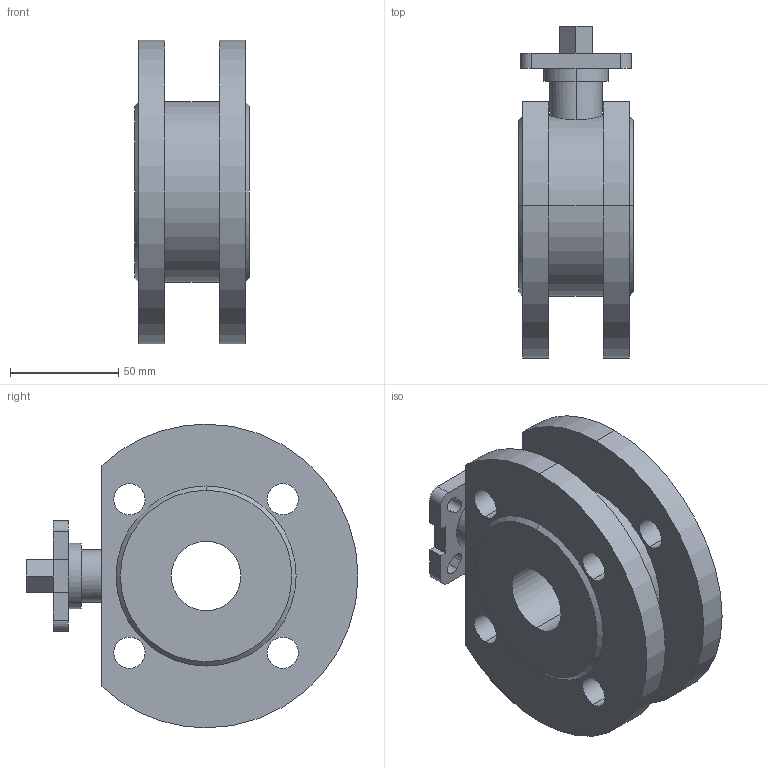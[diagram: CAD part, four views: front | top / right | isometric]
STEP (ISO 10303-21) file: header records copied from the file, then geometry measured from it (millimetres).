
FILE_DESCRIPTION (( 'STEP AP203' ), '1' );
FILE_NAME ('01.622I032016CP.STEP', '2018-10-23T07:31:28', ( '' ), ( '' ), 'SwSTEP 2.0', 'SolidWorks 2014', '' );
FILE_SCHEMA (( 'CONFIG_CONTROL_DESIGN' ));
Length unit declared in the file: millimetre
Products named in the file (1): 01.622I032016CP
Bounding box: 53 x 153 x 140 mm (x, y, z)
Volume: 458842.5 mm3; surface area: 75445.6 mm2
Topology: 1 solids, 1 shells, 86 faces, 228 edges, 152 vertices
Faces by surface type: cylinder 46, plane 36, cone 4
Entity records: 2925 total; most frequent: CARTESIAN_POINT 557, DIRECTION 498, ORIENTED_EDGE 456, EDGE_CURVE 228, AXIS2_PLACEMENT_3D 185, VERTEX_POINT 152, VECTOR 128, LINE 128
